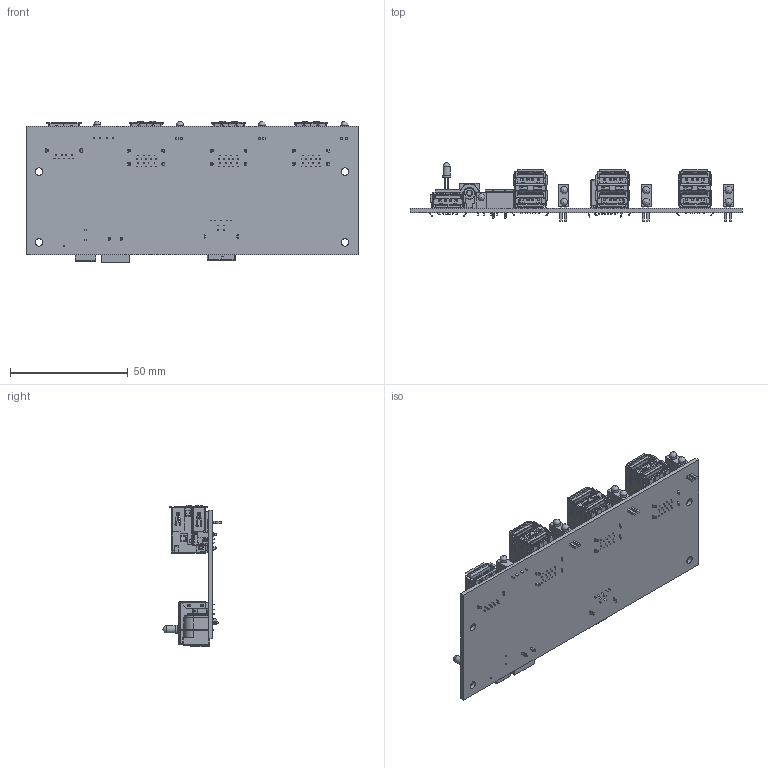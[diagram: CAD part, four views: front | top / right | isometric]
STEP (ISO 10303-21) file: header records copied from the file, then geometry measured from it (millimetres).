
FILE_DESCRIPTION(/* description */ (''),/* implementation_level */ '2;1');
FILE_NAME(/* name */ '/Users/leo/Desktop/Coolgear May/CG-7PU31HB-PCBA/CG-7PU31HB-PCBA Model3D LPV1.step',/* time_stamp */ '2021-09-27T12:15:28-04:00',/* author */ (''),/* organization */ (''),/* preprocessor_version */ 'ST-DEVELOPER v18.1',/* originating_system */ 'Autodesk Translation Framework v10.10.0.1391',/* authorisation */ '');
FILE_SCHEMA (('AUTOMOTIVE_DESIGN { 1 0 10303 214 3 1 1 }'));
Products named in the file (1): FusionComponent
Bounding box: 141.18 x 24.82 x 60.36 mm (x, y, z)
Volume: 24748.5 mm3; surface area: 43677.3 mm2
Topology: 1 solids, 169 shells, 8865 faces, 25371 edges, 16376 vertices
Faces by surface type: plane 6803, cylinder 1984, bspline 52, sphere 14, cone 10, torus 2
Full cylindrical faces by diameter (mm): 1.679 x1, 2.16 x1, 2.89 x1, 2.998 x1, 3 x6, 3.2 x4, 3.54 x1, 3.643 x1, 5.04 x2, 6 x1
Entity records: 288885 total; most frequent: CARTESIAN_POINT 52686, ORIENTED_EDGE 50718, DIRECTION 47149, EDGE_CURVE 25359, LINE 20957, VECTOR 20957, VERTEX_POINT 16376, AXIS2_PLACEMENT_3D 13096
